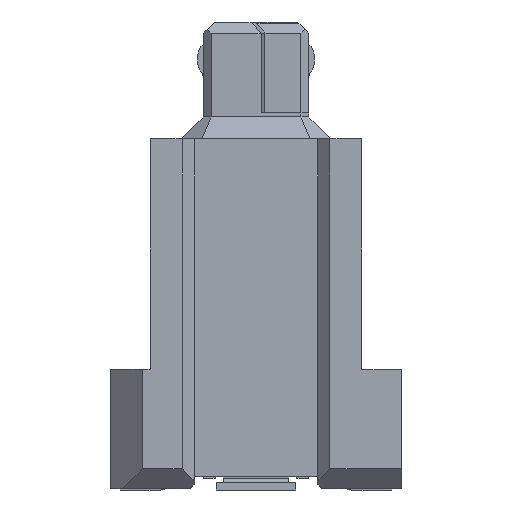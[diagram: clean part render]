
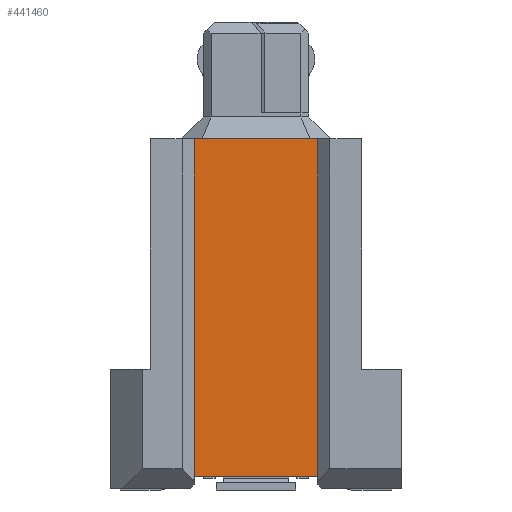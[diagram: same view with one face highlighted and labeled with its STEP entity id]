
A CAD part, left-side view. The second image highlights one B-rep face of the part: STEP entity #441460.
In plain terms, the highlighted planar face has unit normal (-1, 0, 0).
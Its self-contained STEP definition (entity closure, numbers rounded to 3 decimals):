
#403440=CARTESIAN_POINT('',(-0.032,-5.06,4.2));
#403450=VERTEX_POINT('',#403440);
#403480=CARTESIAN_POINT('',(-0.032,1.,4.2));
#403490=DIRECTION('',(0.,-1.,0.));
#403500=VECTOR('',#403490,1.);
#403510=LINE('',#403480,#403500);
#403520=CARTESIAN_POINT('',(-0.032,3.41,4.2));
#403530=VERTEX_POINT('',#403520);
#403540=EDGE_CURVE('',#403530,#403450,#403510,.T.);
#428200=CARTESIAN_POINT('',(-0.032,-5.06,1.1));
#428210=VERTEX_POINT('',#428200);
#428240=CARTESIAN_POINT('',(-0.032,-5.06,0.));
#428250=DIRECTION('',(0.,0.,-1.));
#428260=VECTOR('',#428250,1.);
#428270=LINE('',#428240,#428260);
#428280=EDGE_CURVE('',#403450,#428210,#428270,.T.);
#441230=CARTESIAN_POINT('',(-0.032,-2.36,5.3));
#441240=DIRECTION('',(-1.,0.,0.));
#441250=DIRECTION('',(0.,1.,0.));
#441260=AXIS2_PLACEMENT_3D('',#441230,#441240,#441250);
#441270=PLANE('',#441260);
#441280=CARTESIAN_POINT('',(-0.032,3.41,0.));
#441290=DIRECTION('',(0.,0.,-1.));
#441300=VECTOR('',#441290,1.);
#441310=LINE('',#441280,#441300);
#441320=CARTESIAN_POINT('',(-0.032,3.41,1.1));
#441330=VERTEX_POINT('',#441320);
#441340=EDGE_CURVE('',#403530,#441330,#441310,.T.);
#441350=ORIENTED_EDGE('',*,*,#441340,.T.);
#441360=ORIENTED_EDGE('',*,*,#403540,.F.);
#441370=ORIENTED_EDGE('',*,*,#428280,.F.);
#441380=CARTESIAN_POINT('',(-0.032,-1.36,1.1));
#441390=DIRECTION('',(0.,1.,0.));
#441400=VECTOR('',#441390,1.);
#441410=LINE('',#441380,#441400);
#441420=EDGE_CURVE('',#428210,#441330,#441410,.T.);
#441430=ORIENTED_EDGE('',*,*,#441420,.F.);
#441440=EDGE_LOOP('',(#441430,#441370,#441360,#441350));
#441450=FACE_OUTER_BOUND('',#441440,.T.);
#441460=ADVANCED_FACE('',(#441450),#441270,.T.);
